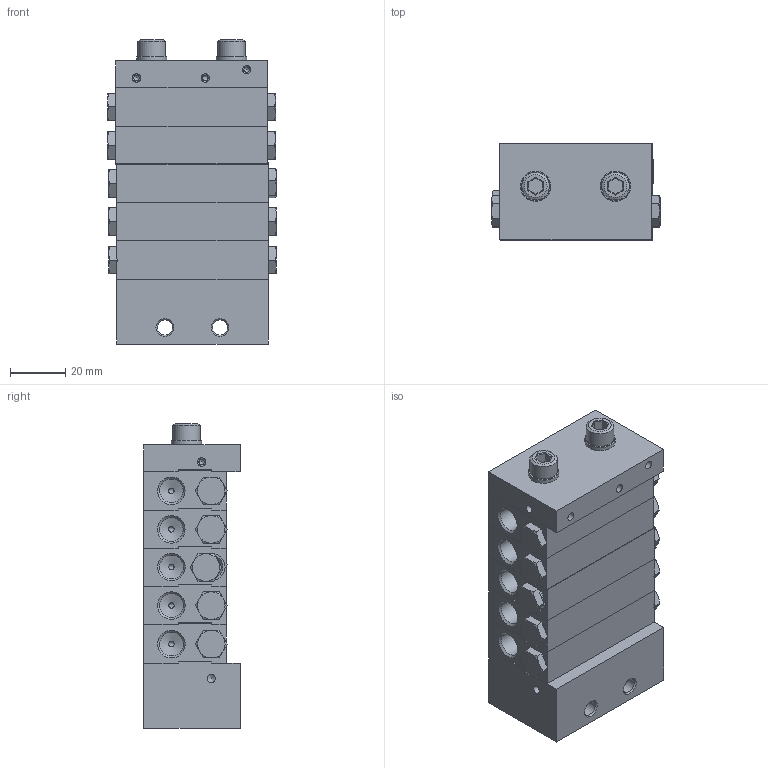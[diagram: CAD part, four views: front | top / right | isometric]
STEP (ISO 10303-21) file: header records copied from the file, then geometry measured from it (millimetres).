
FILE_DESCRIPTION (( 'STEP AP214' ), '1' );
FILE_NAME ('STW_XV_9_Auslässe.STEP', '2025-09-16T13:34:50', ( '' ), ( '' ), 'SwSTEP 2.0', 'SolidWorks 2022', '' );
FILE_SCHEMA (( 'AUTOMOTIVE_DESIGN' ));
Length unit declared in the file: millimetre
Products named in the file (11): STW_XV_END; STW_XV_9_Auslässe; M6X65_DIN_912; STW_XV_ENGANG; STW_XV_Verbindungsstopen; STW_XV_Kolbenanschlag; U_Scheibe_6; O_RING_3X1; STW_XV_MITTEL_1; Verschlussstopfen_1_8
Assembly tree (41 placements, depth 2):
  STW_XV_9_Auslässe
    STW_XV_ENGANG
    O_RING_3X1  x4
    STW_XV_MITTEL_1  x5
    STW_XV_END
    Verschlussstopfen_1_8  x10
    STW_XV_Kolbenanschlag  x10
    STW_XV_Verbindungsstopen  x5
    M6X65_DIN_912  x2
    U_Scheibe_6  x2
    Verschlussstopfen_1_8
Bounding box: 61.32 x 35.03 x 110.48 mm (x, y, z)
Volume: 166657.3 mm3; surface area: 78542.9 mm2
Topology: 41 solids, 41 shells, 1589 faces, 4165 edges, 2662 vertices
Faces by surface type: plane 751, cylinder 419, cone 309, bspline 96, torus 14
Full cylindrical faces by diameter (mm): 2 x137, 3 x7, 5 x56, 5.5 x2, 5.9 x2, 6 x2, 6.2 x12, 6.4 x2, 6.5 x10, 7 x10, 8 x10, 8.4 x5, 8.6 x25, 9 x11, 9.7 x11, 9.73 x5, 10 x12, 11 x2, 15 x1
Entity records: 34655 total; most frequent: CARTESIAN_POINT 15286, ORIENTED_EDGE 2596, DIRECTION 2191, EDGE_CURVE 1298, VERTEX_POINT 919, EDGE_LOOP 845, AXIS2_PLACEMENT_3D 751, VECTOR 689
